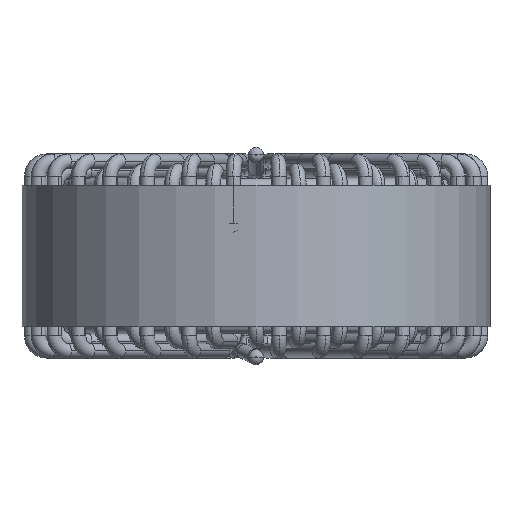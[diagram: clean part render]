
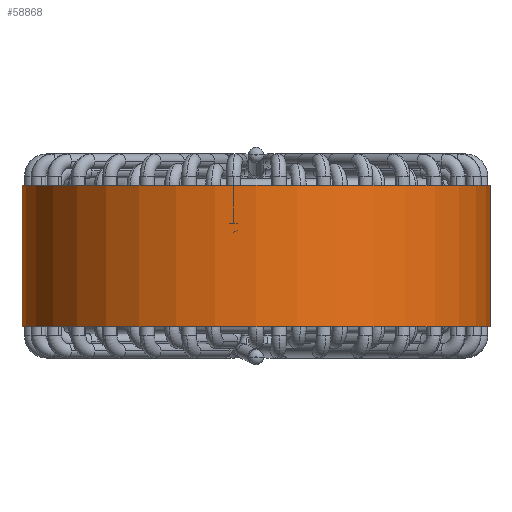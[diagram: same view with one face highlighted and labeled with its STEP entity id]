
A CAD part, front view. The second image highlights one B-rep face of the part: STEP entity #58868.
In plain terms, the highlighted cylindrical face has radius 23.15 mm (diameter 46.299 mm), a partial arc.
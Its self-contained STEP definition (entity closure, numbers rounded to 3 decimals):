
#4655 = AXIS2_PLACEMENT_3D ( 'NONE', #23354, #46982, #71404 ) ;
#10747 = EDGE_CURVE ( 'NONE', #69126, #13035, #22775, .T. ) ;
#13035 = VERTEX_POINT ( 'NONE', #21203 ) ;
#13041 = EDGE_CURVE ( 'NONE', #15986, #73726, #15016, .T. ) ;
#15016 = LINE ( 'NONE', #45373, #31051 ) ;
#15466 = CIRCLE ( 'NONE', #4655, 23.15 ) ;
#15775 = ORIENTED_EDGE ( 'NONE', *, *, #46023, .T. ) ;
#15986 = VERTEX_POINT ( 'NONE', #63538 ) ;
#19970 = DIRECTION ( 'NONE',  ( 0., 0., 1. ) ) ;
#20689 = EDGE_CURVE ( 'NONE', #15986, #69126, #15466, .T. ) ;
#21203 = CARTESIAN_POINT ( 'NONE',  ( 23.15, 0., -7. ) ) ;
#22775 = LINE ( 'NONE', #32398, #27536 ) ;
#23354 = CARTESIAN_POINT ( 'NONE',  ( 0., 0., 7. ) ) ;
#25553 = CIRCLE ( 'NONE', #31250, 23.15 ) ;
#26018 = DIRECTION ( 'NONE',  ( 1., 0., 0. ) ) ;
#27536 = VECTOR ( 'NONE', #73661, 1000. ) ;
#31051 = VECTOR ( 'NONE', #75872, 1000. ) ;
#31250 = AXIS2_PLACEMENT_3D ( 'NONE', #50179, #19970, #26018 ) ;
#32398 = CARTESIAN_POINT ( 'NONE',  ( 23.15, 0., 7. ) ) ;
#34239 = ORIENTED_EDGE ( 'NONE', *, *, #10747, .F. ) ;
#36609 = EDGE_LOOP ( 'NONE', ( #34239, #48920, #71794, #15775 ) ) ;
#37820 = CYLINDRICAL_SURFACE ( 'NONE', #43561, 23.15 ) ;
#43561 = AXIS2_PLACEMENT_3D ( 'NONE', #53796, #77480, #59824 ) ;
#45373 = CARTESIAN_POINT ( 'NONE',  ( -23.15, 0., 7. ) ) ;
#46023 = EDGE_CURVE ( 'NONE', #73726, #13035, #25553, .T. ) ;
#46982 = DIRECTION ( 'NONE',  ( 0., 0., 1. ) ) ;
#48920 = ORIENTED_EDGE ( 'NONE', *, *, #20689, .F. ) ;
#50179 = CARTESIAN_POINT ( 'NONE',  ( 0., 0., -7. ) ) ;
#53778 = FACE_OUTER_BOUND ( 'NONE', #36609, .T. ) ;
#53796 = CARTESIAN_POINT ( 'NONE',  ( 0., 0., 7. ) ) ;
#58868 = ADVANCED_FACE ( 'NONE', ( #53778 ), #37820, .T. ) ;
#59824 = DIRECTION ( 'NONE',  ( -1., 0., 0. ) ) ;
#63538 = CARTESIAN_POINT ( 'NONE',  ( -23.15, 0., 7. ) ) ;
#69014 = CARTESIAN_POINT ( 'NONE',  ( 23.15, 0., 7. ) ) ;
#69126 = VERTEX_POINT ( 'NONE', #69014 ) ;
#71404 = DIRECTION ( 'NONE',  ( 1., 0., 0. ) ) ;
#71794 = ORIENTED_EDGE ( 'NONE', *, *, #13041, .T. ) ;
#73661 = DIRECTION ( 'NONE',  ( 0., 0., -1. ) ) ;
#73687 = CARTESIAN_POINT ( 'NONE',  ( -23.15, 0., -7. ) ) ;
#73726 = VERTEX_POINT ( 'NONE', #73687 ) ;
#75872 = DIRECTION ( 'NONE',  ( 0., 0., -1. ) ) ;
#77480 = DIRECTION ( 'NONE',  ( 0., 0., -1. ) ) ;
